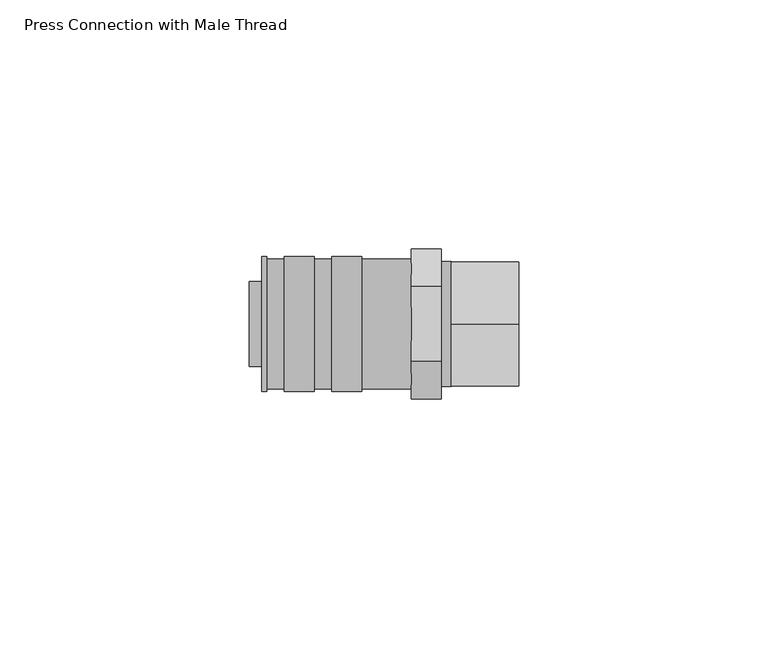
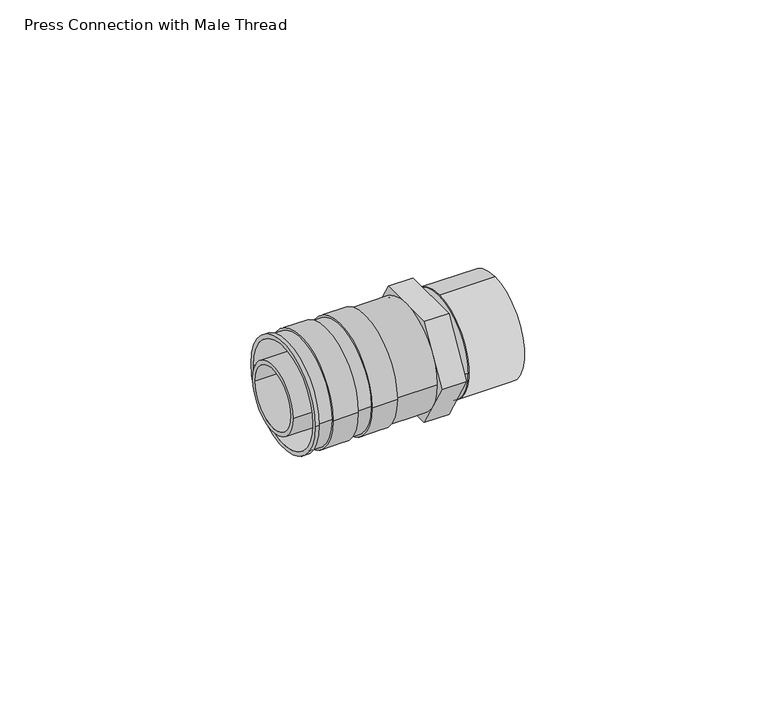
"""IFC4 building model written with IfcOpenShell, lengths in millimetres: pipe fitting geometry, Press Connection with Male Thread : Superpipe Press Connection - 25x¾” MT."""

from ifc_helpers import new_model, si_unit, point, frame, origin, origin_2d, place, context, project, spatial, polyline, circle_curve, trimmed, segment, composite_curve, outline, extrude, source, transform, mapped, element, save
from ifc_brep_helpers import plane_surface, cylinder_surface, revolved_surface, advanced_brep


def press_connection_with_male_thread_6ada2280(model_context):
    return source(origin(), model_context, "Body", "SolidModel", [
        extrude(outline(composite_curve([segment(trimmed(circle_curve(origin_2d(), 12.5), [point((0.0, -12.5))], [point((0.0, 12.5))], False, "CARTESIAN"), True, "CONTINUOUS"), segment(trimmed(circle_curve(origin_2d(), 12.5), [point((0.0, 12.5))], [point((0.0, -12.5))], False, "CARTESIAN"), True, "CONTINUOUS")], self_intersect=False), holes=[composite_curve([segment(trimmed(circle_curve(origin_2d(), 9.0), [point((0.0, -9.0))], [point((0.0, 9.0))], True, "CARTESIAN"), True, "CONTINUOUS"), segment(trimmed(circle_curve(origin_2d(), 9.0), [point((0.0, 9.0))], [point((0.0, -9.0))], True, "CARTESIAN"), True, "CONTINUOUS")], self_intersect=False)]), frame((40.5, 0.0, 0.0), z_axis=(1.0, 0.0, 0.0), x_axis=(0.0, 1.0, 0.0)), (0.0, 0.0, 1.0), 13.5),
        advanced_brep(
        [(2.5, 13.5, 0.0), (2.5, -13.5, 0.0), (2.5, 12.5, 0.0), (2.5, -12.5, 0.0), (32.5, -13.0, 0.0), (32.5, 13.0, 0.0), (32.5, 12.5, 0.0), (32.5, -12.5, 0.0), (3.5, 13.5, 0.0), (3.5, -13.5, 0.0), (22.5, 13.5, 0.0), (22.5, -13.5, 0.0), (16.5, -13.5, 0.0), (16.5, 13.5, 0.0), (13.0, 13.5, 0.0), (13.0, -13.5, 0.0), (7.0, -13.5, 0.0), (7.0, 13.5, 0.0), (22.5, 13.0, 0.0), (22.5, -13.0, 0.0), (16.5, -13.0, 0.0), (16.5, 13.0, 0.0), (13.0, 13.0, 0.0), (13.0, -13.0, 0.0), (7.0, -13.0, 0.0), (7.0, 13.0, 0.0), (3.5, 13.0, 0.0), (3.5, -13.0, 0.0)],
        [
            (0, 1, circle_curve(frame((2.5, 0.0, 0.0), z_axis=(-1.0, 0.0, 0.0), x_axis=(0.0, -1.0, 0.0)), 13.5)),
            (1, 0, circle_curve(frame((2.5, 0.0, 0.0), z_axis=(-1.0, 0.0, 0.0), x_axis=(0.0, -1.0, 0.0)), 13.5)),
            (2, 3, circle_curve(frame((2.5, 0.0, 0.0), z_axis=(1.0, 0.0, 0.0), x_axis=(0.0, -1.0, 0.0)), 12.5)),
            (3, 2, circle_curve(frame((2.5, 0.0, 0.0), z_axis=(1.0, 0.0, 0.0), x_axis=(0.0, -1.0, 0.0)), 12.5)),
            (4, 5, circle_curve(frame((32.5, 0.0, 0.0), z_axis=(1.0, 0.0, 0.0), x_axis=(0.0, 1.0, 0.0)), 13.0)),
            (5, 4, circle_curve(frame((32.5, 0.0, 0.0), z_axis=(1.0, 0.0, 0.0), x_axis=(0.0, 1.0, 0.0)), 13.0)),
            (6, 7, circle_curve(frame((32.5, 0.0, 0.0), z_axis=(-1.0, 0.0, 0.0), x_axis=(0.0, -1.0, 0.0)), 12.5)),
            (7, 6, circle_curve(frame((32.5, 0.0, 0.0), z_axis=(-1.0, 0.0, 0.0), x_axis=(0.0, -1.0, 0.0)), 12.5)),
            (0, 8),
            (8, 9, circle_curve(frame((3.5, 0.0, 0.0), z_axis=(-1.0, 0.0, 0.0), x_axis=(0.0, -1.0, 0.0)), 13.5)),
            (9, 1),
            (10, 11, circle_curve(frame((22.5, 0.0, 0.0), z_axis=(-1.0, 0.0, 0.0), x_axis=(0.0, -1.0, 0.0)), 13.5)),
            (11, 12),
            (12, 13, circle_curve(frame((16.5, 0.0, 0.0), z_axis=(1.0, 0.0, 0.0), x_axis=(0.0, -1.0, 0.0)), 13.5)),
            (13, 10),
            (14, 15, circle_curve(frame((13.0, 0.0, 0.0), z_axis=(-1.0, 0.0, 0.0), x_axis=(0.0, -1.0, 0.0)), 13.5)),
            (15, 16),
            (16, 17, circle_curve(frame((7.0, 0.0, 0.0), z_axis=(1.0, 0.0, 0.0), x_axis=(0.0, -1.0, 0.0)), 13.5)),
            (17, 14),
            (9, 8, circle_curve(frame((3.5, 0.0, 0.0), z_axis=(-1.0, 0.0, 0.0), x_axis=(0.0, -1.0, 0.0)), 13.5)),
            (11, 10, circle_curve(frame((22.5, 0.0, 0.0), z_axis=(-1.0, 0.0, 0.0), x_axis=(0.0, -1.0, 0.0)), 13.5)),
            (13, 12, circle_curve(frame((16.5, 0.0, 0.0), z_axis=(1.0, 0.0, 0.0), x_axis=(0.0, -1.0, 0.0)), 13.5)),
            (15, 14, circle_curve(frame((13.0, 0.0, 0.0), z_axis=(-1.0, 0.0, 0.0), x_axis=(0.0, -1.0, 0.0)), 13.5)),
            (17, 16, circle_curve(frame((7.0, 0.0, 0.0), z_axis=(1.0, 0.0, 0.0), x_axis=(0.0, -1.0, 0.0)), 13.5)),
            (2, 6),
            (7, 3),
            (18, 19, circle_curve(frame((22.5, 0.0, 0.0), z_axis=(-1.0, 0.0, 0.0), x_axis=(0.0, 1.0, 0.0)), 13.0)),
            (19, 11),
            (10, 18),
            (19, 18, circle_curve(frame((22.5, 0.0, 0.0), z_axis=(-1.0, 0.0, 0.0), x_axis=(0.0, 1.0, 0.0)), 13.0)),
            (18, 5),
            (4, 19),
            (20, 21, circle_curve(frame((16.5, 0.0, 0.0), z_axis=(1.0, 0.0, 0.0), x_axis=(0.0, 1.0, 0.0)), 13.0)),
            (21, 13),
            (12, 20),
            (21, 20, circle_curve(frame((16.5, 0.0, 0.0), z_axis=(1.0, 0.0, 0.0), x_axis=(0.0, 1.0, 0.0)), 13.0)),
            (22, 23, circle_curve(frame((13.0, 0.0, 0.0), z_axis=(-1.0, 0.0, 0.0), x_axis=(0.0, 1.0, 0.0)), 13.0)),
            (23, 15),
            (14, 22),
            (23, 22, circle_curve(frame((13.0, 0.0, 0.0), z_axis=(-1.0, 0.0, 0.0), x_axis=(0.0, 1.0, 0.0)), 13.0)),
            (20, 23),
            (22, 21),
            (24, 25, circle_curve(frame((7.0, 0.0, 0.0), z_axis=(1.0, 0.0, 0.0), x_axis=(0.0, 1.0, 0.0)), 13.0)),
            (25, 17),
            (16, 24),
            (25, 24, circle_curve(frame((7.0, 0.0, 0.0), z_axis=(1.0, 0.0, 0.0), x_axis=(0.0, 1.0, 0.0)), 13.0)),
            (26, 27, circle_curve(frame((3.5, 0.0, 0.0), z_axis=(-1.0, 0.0, 0.0), x_axis=(0.0, 1.0, 0.0)), 13.0)),
            (27, 9),
            (8, 26),
            (27, 26, circle_curve(frame((3.5, 0.0, 0.0), z_axis=(-1.0, 0.0, 0.0), x_axis=(0.0, 1.0, 0.0)), 13.0)),
            (24, 27),
            (26, 25),
        ],
        [
            plane_surface(frame((2.5, -13.5, 0.0), z_axis=(-1.0, 0.0, 0.0), x_axis=(0.0, 0.0, 1.0))),
            plane_surface(frame((32.5, -13.5, 0.0), z_axis=(1.0, 0.0, 0.0), x_axis=(0.0, 0.0, -1.0))),
            cylinder_surface(frame((32.5, 0.0, 0.0), z_axis=(-1.0, 0.0, 0.0), x_axis=(0.0, -1.0, 0.0)), 13.5),
            revolved_surface(polyline([(32.5, -12.5, 0.0), (2.5, -12.5, 0.0)]), (32.5, 0.0, 0.0), (1.0, 0.0, 0.0)),
            plane_surface(frame((22.5, 0.0, 0.0), z_axis=(1.0, 0.0, 0.0), x_axis=(0.0, 1.0, 0.0))),
            cylinder_surface(frame((1992.0, 0.0, 0.0), z_axis=(-1.0, 0.0, 0.0), x_axis=(0.0, 1.0, 0.0)), 13.0),
            plane_surface(frame((16.5, 0.0, 0.0), z_axis=(-1.0, 0.0, 0.0), x_axis=(0.0, 1.0, 0.0))),
            plane_surface(frame((13.0, 0.0, 0.0), z_axis=(1.0, 0.0, 0.0), x_axis=(0.0, 1.0, 0.0))),
            plane_surface(frame((7.0, 0.0, 0.0), z_axis=(-1.0, 0.0, 0.0), x_axis=(0.0, 1.0, 0.0))),
            plane_surface(frame((3.5, 0.0, 0.0), z_axis=(1.0, 0.0, 0.0), x_axis=(0.0, 1.0, 0.0))),
        ],
        [
            (0, [[1, 2], [3, 4]]),
            (1, [[5, 6], [7, 8]]),
            (2, [[-1, 9, 10, 11]]),
            (2, [[12, 13, 14, 15]]),
            (2, [[16, 17, 18, 19]]),
            (2, [[-2, -11, 20, -9]]),
            (2, [[21, -15, 22, -13]]),
            (2, [[23, -19, 24, -17]]),
            (3, [[-3, 25, -8, 26]]),
            (3, [[-4, -26, -7, -25]]),
            (4, [[27, 28, -12, 29]]),
            (4, [[30, -29, -21, -28]]),
            (5, [[-27, 31, -5, 32]]),
            (5, [[-30, -32, -6, -31]]),
            (6, [[33, 34, -14, 35]]),
            (6, [[36, -35, -22, -34]]),
            (7, [[37, 38, -16, 39]]),
            (7, [[40, -39, -23, -38]]),
            (5, [[-33, 41, -37, 42]]),
            (5, [[-36, -42, -40, -41]]),
            (8, [[43, 44, -18, 45]]),
            (8, [[46, -45, -24, -44]]),
            (9, [[47, 48, -10, 49]]),
            (9, [[50, -49, -20, -48]]),
            (5, [[-43, 51, -47, 52]]),
            (5, [[-46, -52, -50, -51]]),
        ],
    ),
        extrude(outline(composite_curve([segment(trimmed(circle_curve(origin_2d(), 12.5), [point((-12.5, 0.0))], [point((12.5, 0.0))], False, "CARTESIAN"), True, "CONTINUOUS"), segment(trimmed(circle_curve(origin_2d(), 12.5), [point((12.5, 0.0))], [point((-12.5, 0.0))], False, "CARTESIAN"), True, "CONTINUOUS")], self_intersect=False), holes=[composite_curve([segment(trimmed(circle_curve(origin_2d(), 9.0), [point((-9.0, 0.0))], [point((9.0, 0.0))], True, "CARTESIAN"), True, "CONTINUOUS"), segment(trimmed(circle_curve(origin_2d(), 9.0), [point((9.0, 0.0))], [point((-9.0, 0.0))], True, "CARTESIAN"), True, "CONTINUOUS")], self_intersect=False)]), frame((38.5, 0.0, 0.0), z_axis=(1.0, 0.0, 0.0), x_axis=(0.0, 1.0, 0.0)), (0.0, 0.0, 1.0), 2.0),
        extrude(outline(polyline([(-15.011107, 0.0), (-7.5055535, 13.0), (7.5055535, 13.0), (15.011107, 0.0), (7.5055535, -13.0), (-7.5055535, -13.0), (-15.011107, 0.0)]), holes=[composite_curve([segment(trimmed(circle_curve(origin_2d(), 7.5), [point((7.5, 0.0))], [point((-7.5, 0.0))], True, "CARTESIAN"), True, "CONTINUOUS"), segment(trimmed(circle_curve(origin_2d(), 7.5), [point((-7.5, 0.0))], [point((7.5, 0.0))], True, "CARTESIAN"), True, "CONTINUOUS")], self_intersect=False)]), frame((32.5, 0.0, 0.0), z_axis=(1.0, 0.0, 0.0), x_axis=(0.0, 1.0, 0.0)), (0.0, 0.0, 1.0), 6.0),
        extrude(outline(composite_curve([segment(trimmed(circle_curve(origin_2d(), 8.5), [point((-8.5, 0.0))], [point((8.5, 0.0))], False, "CARTESIAN"), True, "CONTINUOUS"), segment(trimmed(circle_curve(origin_2d(), 8.5), [point((8.5, 0.0))], [point((-8.5, 0.0))], False, "CARTESIAN"), True, "CONTINUOUS")], self_intersect=False), holes=[composite_curve([segment(trimmed(circle_curve(origin_2d(), 7.5), [point((7.5, 0.0))], [point((-7.5, 0.0))], True, "CARTESIAN"), True, "CONTINUOUS"), segment(trimmed(circle_curve(origin_2d(), 7.5), [point((-7.5, 0.0))], [point((7.5, 0.0))], True, "CARTESIAN"), True, "CONTINUOUS")], self_intersect=False)]), frame((0.0, 0.0, 0.0), z_axis=(1.0, 0.0, 0.0), x_axis=(0.0, 1.0, 0.0)), (0.0, 0.0, 1.0), 32.5),
    ])


if __name__ == "__main__":
    model = new_model("IFC4")
    model_context = context("Model", 3, world=origin())
    ifc_project = project(units=[si_unit("LENGTHUNIT", "METRE", prefix="MILLI")], contexts=[model_context])
    site = spatial("IfcSite", under=ifc_project)
    building = spatial("IfcBuilding", under=site)
    placement = place(None, origin())
    press_connection_with_male_thread_shape = press_connection_with_male_thread_6ada2280(model_context)
    element("IfcPipeFitting", 1, ObjectType="Press Connection with Male Thread : Superpipe Press Connection - 25x¾” MT", at=placement, inside=building, context=model_context, shape_type="MappedRepresentation", body=[
        mapped(press_connection_with_male_thread_shape, transform((0.0, 0.0, 0.0), x_axis=(1.0, 0.0, 0.0), y_axis=(0.0, 1.0, 0.0), z_axis=(0.0, 0.0, 1.0))),
    ])
    save(model, "model.ifc")
